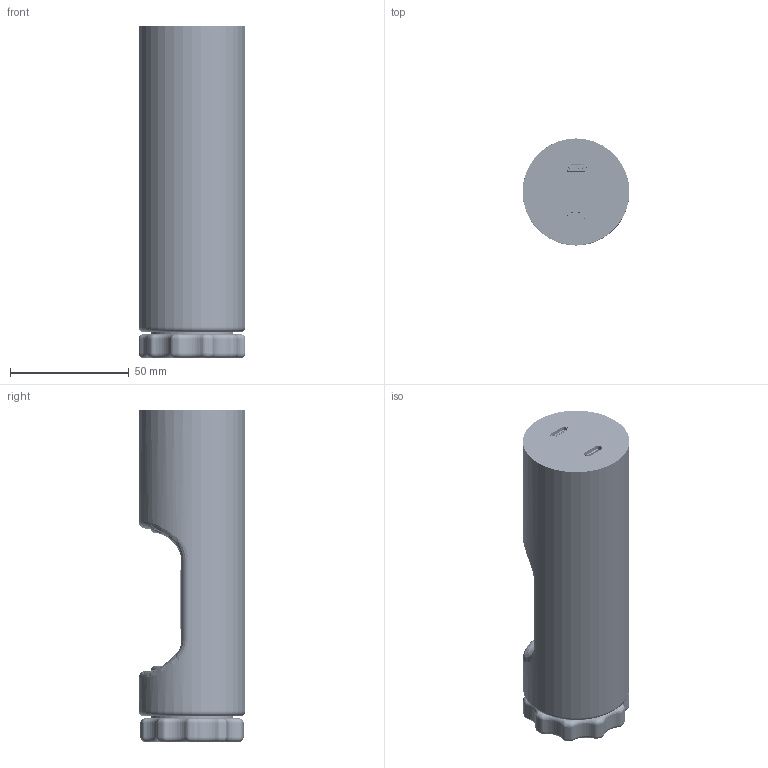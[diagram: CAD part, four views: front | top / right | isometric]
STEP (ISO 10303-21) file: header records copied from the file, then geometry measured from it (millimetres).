
FILE_DESCRIPTION (( 'STEP AP214' ), '1' );
FILE_NAME ('KitKat.STEP', '2026-10-24T22:03:28', ( '' ), ( '' ), 'SwSTEP 2.0', 'SolidWorks 2025', '' );
FILE_SCHEMA (( 'AUTOMOTIVE_DESIGN' ));
Length unit declared in the file: millimetre
Products named in the file (6): Outer tube; HW-373; Holder tube; KitKat; 0.96'''' OLED Display; ESP32-C3-SuperMini
Assembly tree (5 placements, depth 2):
  KitKat
    Outer tube
    Holder tube
    HW-373
    ESP32-C3-SuperMini
    0.96'''' OLED Display
Bounding box: 45 x 45 x 140 mm (x, y, z)
Volume: 95899.5 mm3; surface area: 67160.7 mm2
Topology: 343 solids, 595 shells, 13810 faces, 35940 edges, 23406 vertices
Faces by surface type: plane 6534, bspline 4959, cylinder 2060, sphere 133, torus 88, cone 36
Entity records: 498010 total; most frequent: CARTESIAN_POINT 186390, ORIENTED_EDGE 71660, DIRECTION 46964, EDGE_CURVE 35839, VERTEX_POINT 23367, LINE 21246, VECTOR 21246, EDGE_LOOP 14477
